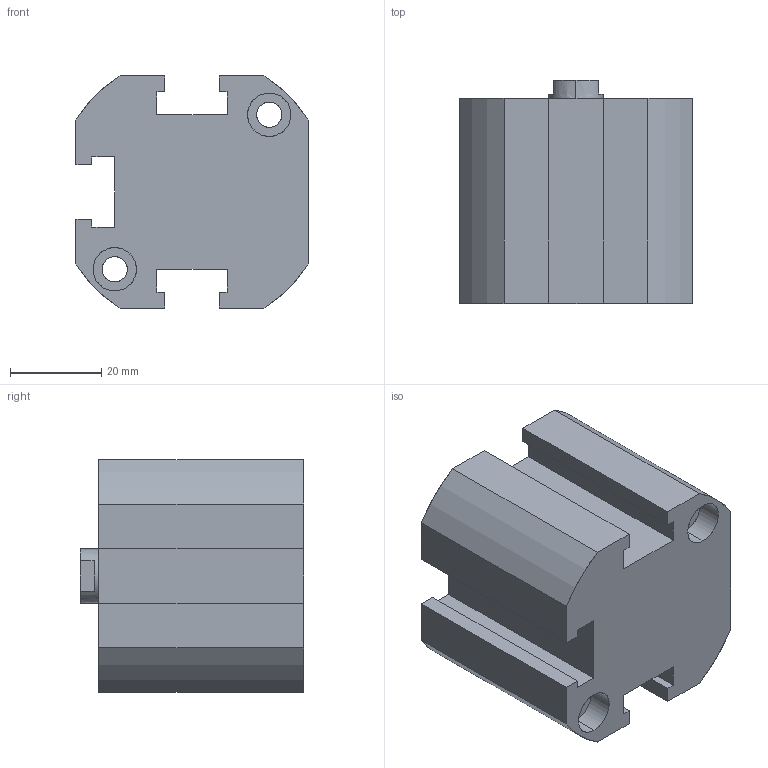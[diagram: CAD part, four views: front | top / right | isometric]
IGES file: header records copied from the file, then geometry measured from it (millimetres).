
Start section: SolidWorks IGES file using analytic representation for surfaces
Global section: file name: C:\Users\Toshiba\Desktop\XG#2-32D-10.IGS; native system: SolidWorks 2014; preprocessor: SolidWorks 2014; author: Toshiba; date: 160524.094804; units: millimetre
Bounding box: 51 x 49 x 51 mm (x, y, z)
Surface area: 18648.6 mm2 (no closed solid volume)
Topology: 0 solids, 0 shells, 98 faces, 1502 edges, 1496 vertices
Faces by surface type: revolution 52, bspline 46
